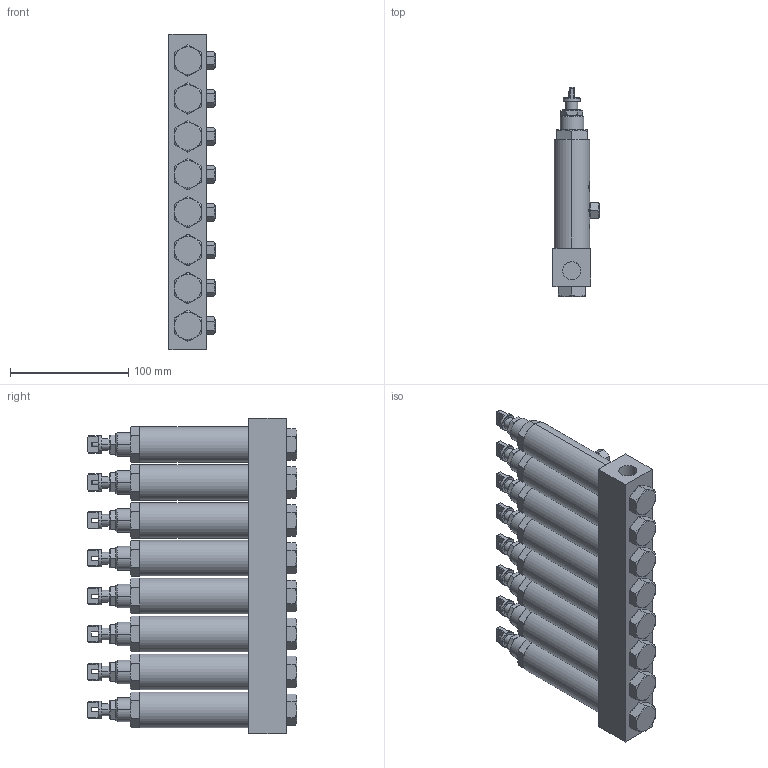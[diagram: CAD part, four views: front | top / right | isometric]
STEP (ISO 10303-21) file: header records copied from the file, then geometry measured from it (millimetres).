
FILE_DESCRIPTION (( 'STEP AP203' ), '1' );
FILE_NAME ('ASL-08.STEP', '2020-04-18T03:38:45', ( '个人用户' ), ( '微软中国' ), 'SwSTEP 2.0', 'SolidWorks 2018', '' );
FILE_SCHEMA (( 'CONFIG_CONTROL_DESIGN' ));
Length unit declared in the file: millimetre
Products named in the file (1): ASL-08
Bounding box: 39 x 176.5 x 266 mm (x, y, z)
Surface area: 153218.8 mm2 (no closed solid volume)
Topology: 0 solids, 70 shells, 823 faces, 2280 edges, 1522 vertices
Faces by surface type: plane 453, cone 234, cylinder 116, torus 16, sphere 4
Entity records: 30542 total; most frequent: CARTESIAN_POINT 10168, ORIENTED_EDGE 4062, DIRECTION 4046, EDGE_CURVE 2270, VERTEX_POINT 1516, AXIS2_PLACEMENT_3D 1498, VECTOR 1050, LINE 1050
